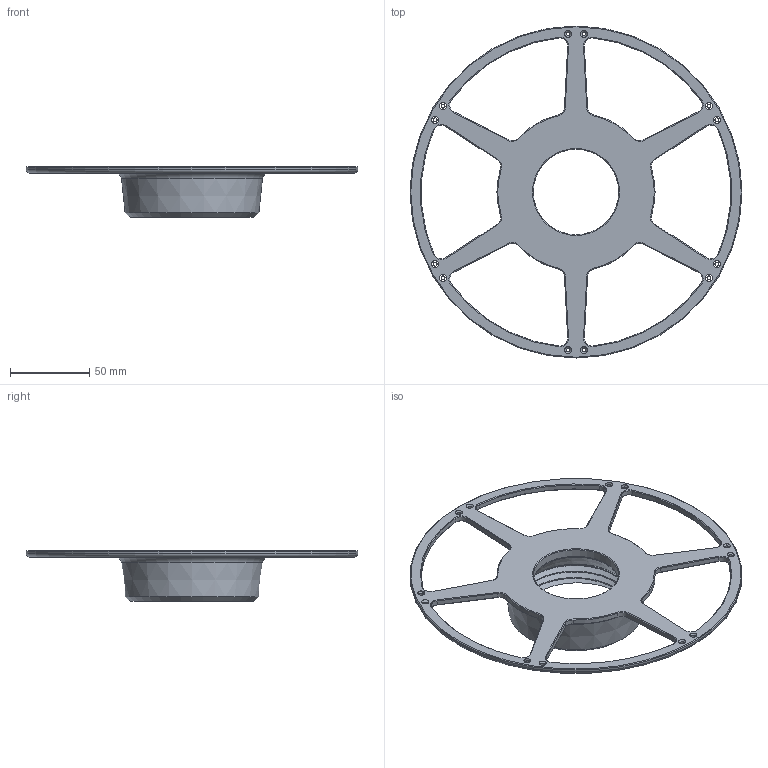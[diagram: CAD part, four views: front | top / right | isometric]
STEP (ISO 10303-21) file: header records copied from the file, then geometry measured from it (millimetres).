
FILE_DESCRIPTION(/* description */ (''),/* implementation_level */ '2;1');
FILE_NAME(/* name */ '',/* time_stamp */ '2025-09-19T17:20:42+03:00',/* author */ ('Пользователь'),/* organization */ (''),/* preprocessor_version */ 'ST-DEVELOPER v20.1',/* originating_system */ 'Autodesk Inventor 2026',/* authorisation */ '');
FILE_SCHEMA (('AUTOMOTIVE_DESIGN { 1 0 10303 214 3 1 1 }'));
Length unit declared in the file: millimetre
Products named in the file (1): Деталь11
Bounding box: 210 x 210 x 32 mm (x, y, z)
Volume: 119383.1 mm3; surface area: 48476.8 mm2
Topology: 1 solids, 1 shells, 204 faces, 491 edges, 291 vertices
Faces by surface type: cone 102, cylinder 54, plane 41, bspline 5, torus 2
Full cylindrical faces by diameter (mm): 2.5 x12, 54 x1, 76 x2, 210 x1
Entity records: 8409 total; most frequent: CARTESIAN_POINT 3242, DIRECTION 1098, ORIENTED_EDGE 982, EDGE_CURVE 491, AXIS2_PLACEMENT_3D 428, VERTEX_POINT 291, EDGE_LOOP 244, LINE 242
